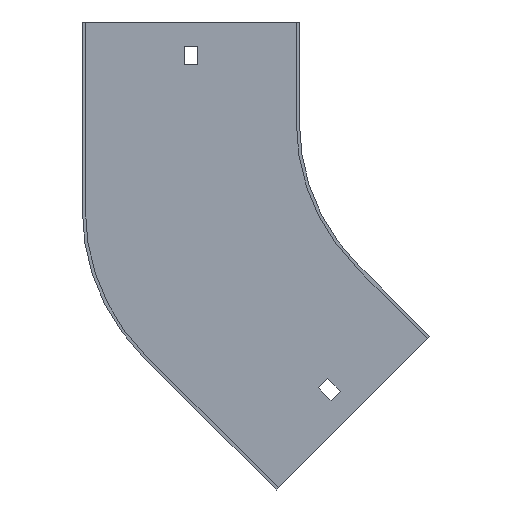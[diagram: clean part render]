
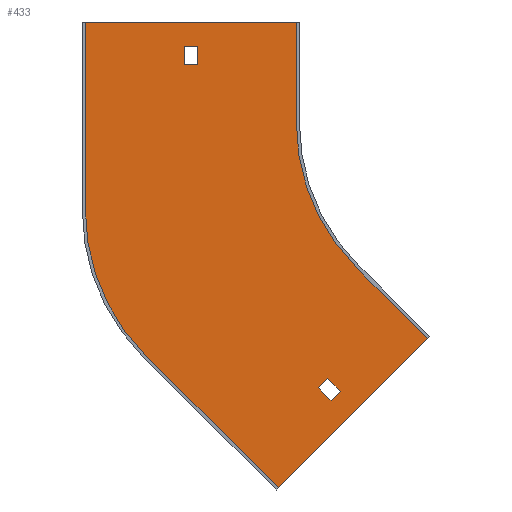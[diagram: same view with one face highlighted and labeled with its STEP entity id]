
A CAD part, front view. The second image highlights one B-rep face of the part: STEP entity #433.
In plain terms, the highlighted planar face has unit normal (0, -1, 0).
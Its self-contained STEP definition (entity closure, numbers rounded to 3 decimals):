
#3 = DIRECTION ( 'NONE',  ( 0., 0., -1. ) ) ;
#25 = CARTESIAN_POINT ( 'NONE',  ( -70.711, -1.5, -70.711 ) ) ;
#26 = CARTESIAN_POINT ( 'NONE',  ( 0., -1.5, 0. ) ) ;
#32 = DIRECTION ( 'NONE',  ( 0., 0., -1. ) ) ;
#35 = LINE ( 'NONE', #824, #442 ) ;
#36 = VERTEX_POINT ( 'NONE', #254 ) ;
#39 = VERTEX_POINT ( 'NONE', #126 ) ;
#41 = EDGE_CURVE ( 'NONE', #149, #109, #443, .T. ) ;
#44 = ORIENTED_EDGE ( 'NONE', *, *, #730, .F. ) ;
#56 = LINE ( 'NONE', #788, #215 ) ;
#66 = CARTESIAN_POINT ( 'NONE',  ( -204., -1.5, -43.078 ) ) ;
#74 = DIRECTION ( 'NONE',  ( 0., 0., -1. ) ) ;
#76 = CARTESIAN_POINT ( 'NONE',  ( 0., -1.5, 0. ) ) ;
#98 = PLANE ( 'NONE',  #706 ) ;
#103 = DIRECTION ( 'NONE',  ( 0., 0., -1. ) ) ;
#109 = VERTEX_POINT ( 'NONE', #525 ) ;
#120 = DIRECTION ( 'NONE',  ( -0.707, 0., 0.707 ) ) ;
#121 = DIRECTION ( 'NONE',  ( 0., 0., -1. ) ) ;
#123 = VERTEX_POINT ( 'NONE', #535 ) ;
#126 = CARTESIAN_POINT ( 'NONE',  ( -84.676, -1.5, -125.688 ) ) ;
#141 = CARTESIAN_POINT ( 'NONE',  ( -100., -1.5, 0. ) ) ;
#149 = VERTEX_POINT ( 'NONE', #628 ) ;
#157 = VERTEX_POINT ( 'NONE', #141 ) ;
#165 = ORIENTED_EDGE ( 'NONE', *, *, #716, .F. ) ;
#167 = ORIENTED_EDGE ( 'NONE', *, *, #226, .T. ) ;
#171 = EDGE_CURVE ( 'NONE', #514, #123, #463, .T. ) ;
#177 = VERTEX_POINT ( 'NONE', #229 ) ;
#188 = LINE ( 'NONE', #245, #833 ) ;
#191 = DIRECTION ( 'NONE',  ( 0., 0., 1. ) ) ;
#199 = EDGE_CURVE ( 'NONE', #686, #149, #56, .T. ) ;
#214 = CARTESIAN_POINT ( 'NONE',  ( 20.506, -1.5, -20.506 ) ) ;
#215 = VECTOR ( 'NONE', #191, 1000. ) ;
#221 = EDGE_CURVE ( 'NONE', #36, #370, #439, .T. ) ;
#222 = ORIENTED_EDGE ( 'NONE', *, *, #545, .F. ) ;
#225 = DIRECTION ( 'NONE',  ( -0.707, 0., 0.707 ) ) ;
#226 = EDGE_CURVE ( 'NONE', #718, #429, #188, .T. ) ;
#229 = CARTESIAN_POINT ( 'NONE',  ( -89.272, -1.5, -130.284 ) ) ;
#232 = AXIS2_PLACEMENT_3D ( 'NONE', #361, #690, #103 ) ;
#240 = EDGE_CURVE ( 'NONE', #253, #686, #462, .T. ) ;
#245 = CARTESIAN_POINT ( 'NONE',  ( -148.75, -1.5, 0. ) ) ;
#253 = VERTEX_POINT ( 'NONE', #759 ) ;
#254 = CARTESIAN_POINT ( 'NONE',  ( -155.25, -1.5, 29. ) ) ;
#270 = VERTEX_POINT ( 'NONE', #569 ) ;
#280 = EDGE_CURVE ( 'NONE', #39, #177, #449, .T. ) ;
#289 = ORIENTED_EDGE ( 'NONE', *, *, #280, .F. ) ;
#295 = LINE ( 'NONE', #304, #408 ) ;
#304 = CARTESIAN_POINT ( 'NONE',  ( -105.182, -1.5, -105.182 ) ) ;
#323 = LINE ( 'NONE', #724, #325 ) ;
#325 = VECTOR ( 'NONE', #859, 1000. ) ;
#327 = CARTESIAN_POINT ( 'NONE',  ( -148.75, -1.5, 38. ) ) ;
#328 = EDGE_CURVE ( 'NONE', #177, #832, #339, .T. ) ;
#339 = LINE ( 'NONE', #678, #815 ) ;
#342 = VERTEX_POINT ( 'NONE', #345 ) ;
#345 = CARTESIAN_POINT ( 'NONE',  ( -108.894, -1.5, -179.605 ) ) ;
#346 = ORIENTED_EDGE ( 'NONE', *, *, #41, .F. ) ;
#352 = DIRECTION ( 'NONE',  ( 0., -1., 0. ) ) ;
#355 = FACE_OUTER_BOUND ( 'NONE', #518, .T. ) ;
#361 = CARTESIAN_POINT ( 'NONE',  ( -104., -1.5, -43.078 ) ) ;
#363 = ORIENTED_EDGE ( 'NONE', *, *, #240, .F. ) ;
#370 = VERTEX_POINT ( 'NONE', #459 ) ;
#375 = ORIENTED_EDGE ( 'NONE', *, *, #221, .T. ) ;
#377 = CARTESIAN_POINT ( 'NONE',  ( -155.25, -1.5, 0. ) ) ;
#380 = CARTESIAN_POINT ( 'NONE',  ( -205.5, -1.5, 50. ) ) ;
#391 = CARTESIAN_POINT ( 'NONE',  ( 26.87, -1.5, -26.87 ) ) ;
#408 = VECTOR ( 'NONE', #120, 1000. ) ;
#413 = CARTESIAN_POINT ( 'NONE',  ( -148.75, -1.5, 29. ) ) ;
#416 = EDGE_CURVE ( 'NONE', #123, #342, #765, .T. ) ;
#418 = ORIENTED_EDGE ( 'NONE', *, *, #667, .F. ) ;
#429 = VERTEX_POINT ( 'NONE', #413 ) ;
#432 = CARTESIAN_POINT ( 'NONE',  ( -70.711, -1.5, -70.711 ) ) ;
#433 = ADVANCED_FACE ( 'NONE', ( #618, #355, #629 ), #98, .T. ) ;
#439 = LINE ( 'NONE', #377, #595 ) ;
#440 = LINE ( 'NONE', #857, #735 ) ;
#442 = VECTOR ( 'NONE', #225, 1000. ) ;
#443 = LINE ( 'NONE', #380, #650 ) ;
#446 = EDGE_CURVE ( 'NONE', #342, #253, #35, .T. ) ;
#447 = LINE ( 'NONE', #729, #515 ) ;
#449 = LINE ( 'NONE', #214, #673 ) ;
#459 = CARTESIAN_POINT ( 'NONE',  ( -155.25, -1.5, 38. ) ) ;
#462 = CIRCLE ( 'NONE', #232, 100. ) ;
#463 = LINE ( 'NONE', #25, #494 ) ;
#477 = DIRECTION ( 'NONE',  ( -0.707, 0., -0.707 ) ) ;
#480 = AXIS2_PLACEMENT_3D ( 'NONE', #76, #799, #74 ) ;
#481 = ORIENTED_EDGE ( 'NONE', *, *, #416, .F. ) ;
#494 = VECTOR ( 'NONE', #539, 1000. ) ;
#495 = ORIENTED_EDGE ( 'NONE', *, *, #171, .F. ) ;
#503 = ORIENTED_EDGE ( 'NONE', *, *, #199, .F. ) ;
#506 = VECTOR ( 'NONE', #796, 1000. ) ;
#514 = VERTEX_POINT ( 'NONE', #432 ) ;
#515 = VECTOR ( 'NONE', #658, 1000. ) ;
#518 = EDGE_LOOP ( 'NONE', ( #346, #503, #363, #786, #481, #495, #418, #44 ) ) ;
#525 = CARTESIAN_POINT ( 'NONE',  ( -100., -1.5, 50. ) ) ;
#535 = CARTESIAN_POINT ( 'NONE',  ( -35.355, -1.5, -106.066 ) ) ;
#539 = DIRECTION ( 'NONE',  ( 0.707, 0., -0.707 ) ) ;
#545 = EDGE_CURVE ( 'NONE', #270, #39, #295, .T. ) ;
#565 = ORIENTED_EDGE ( 'NONE', *, *, #328, .F. ) ;
#569 = CARTESIAN_POINT ( 'NONE',  ( -78.312, -1.5, -132.052 ) ) ;
#574 = EDGE_LOOP ( 'NONE', ( #698, #167, #789, #375 ) ) ;
#578 = EDGE_LOOP ( 'NONE', ( #222, #165, #565, #289 ) ) ;
#595 = VECTOR ( 'NONE', #785, 1000. ) ;
#618 = FACE_BOUND ( 'NONE', #578, .T. ) ;
#628 = CARTESIAN_POINT ( 'NONE',  ( -204., -1.5, 50. ) ) ;
#629 = FACE_BOUND ( 'NONE', #574, .T. ) ;
#650 = VECTOR ( 'NONE', #656, 1000. ) ;
#656 = DIRECTION ( 'NONE',  ( 1., 0., 0. ) ) ;
#658 = DIRECTION ( 'NONE',  ( 1., 0., 0. ) ) ;
#667 = EDGE_CURVE ( 'NONE', #157, #514, #793, .T. ) ;
#668 = DIRECTION ( 'NONE',  ( 0.707, 0., -0.707 ) ) ;
#673 = VECTOR ( 'NONE', #813, 1000. ) ;
#678 = CARTESIAN_POINT ( 'NONE',  ( -109.778, -1.5, -109.778 ) ) ;
#686 = VERTEX_POINT ( 'NONE', #66 ) ;
#690 = DIRECTION ( 'NONE',  ( 0., 1., 0. ) ) ;
#698 = ORIENTED_EDGE ( 'NONE', *, *, #825, .T. ) ;
#702 = EDGE_CURVE ( 'NONE', #429, #36, #323, .T. ) ;
#706 = AXIS2_PLACEMENT_3D ( 'NONE', #26, #352, #32 ) ;
#716 = EDGE_CURVE ( 'NONE', #832, #270, #846, .T. ) ;
#718 = VERTEX_POINT ( 'NONE', #327 ) ;
#724 = CARTESIAN_POINT ( 'NONE',  ( 0., -1.5, 29. ) ) ;
#729 = CARTESIAN_POINT ( 'NONE',  ( 0., -1.5, 38. ) ) ;
#730 = EDGE_CURVE ( 'NONE', #109, #157, #440, .T. ) ;
#735 = VECTOR ( 'NONE', #3, 1000. ) ;
#743 = VECTOR ( 'NONE', #477, 1000. ) ;
#759 = CARTESIAN_POINT ( 'NONE',  ( -174.711, -1.5, -113.789 ) ) ;
#765 = LINE ( 'NONE', #770, #743 ) ;
#770 = CARTESIAN_POINT ( 'NONE',  ( -34.295, -1.5, -105.005 ) ) ;
#785 = DIRECTION ( 'NONE',  ( 0., 0., 1. ) ) ;
#786 = ORIENTED_EDGE ( 'NONE', *, *, #446, .F. ) ;
#788 = CARTESIAN_POINT ( 'NONE',  ( -204., -1.5, -43.078 ) ) ;
#789 = ORIENTED_EDGE ( 'NONE', *, *, #702, .T. ) ;
#793 = CIRCLE ( 'NONE', #480, 100. ) ;
#796 = DIRECTION ( 'NONE',  ( 0.707, 0., 0.707 ) ) ;
#799 = DIRECTION ( 'NONE',  ( 0., -1., 0. ) ) ;
#813 = DIRECTION ( 'NONE',  ( -0.707, 0., -0.707 ) ) ;
#815 = VECTOR ( 'NONE', #668, 1000. ) ;
#824 = CARTESIAN_POINT ( 'NONE',  ( -108.894, -1.5, -179.605 ) ) ;
#825 = EDGE_CURVE ( 'NONE', #370, #718, #447, .T. ) ;
#832 = VERTEX_POINT ( 'NONE', #861 ) ;
#833 = VECTOR ( 'NONE', #121, 1000. ) ;
#846 = LINE ( 'NONE', #391, #506 ) ;
#857 = CARTESIAN_POINT ( 'NONE',  ( -100., -1.5, 50. ) ) ;
#859 = DIRECTION ( 'NONE',  ( -1., 0., 0. ) ) ;
#861 = CARTESIAN_POINT ( 'NONE',  ( -82.908, -1.5, -136.648 ) ) ;
